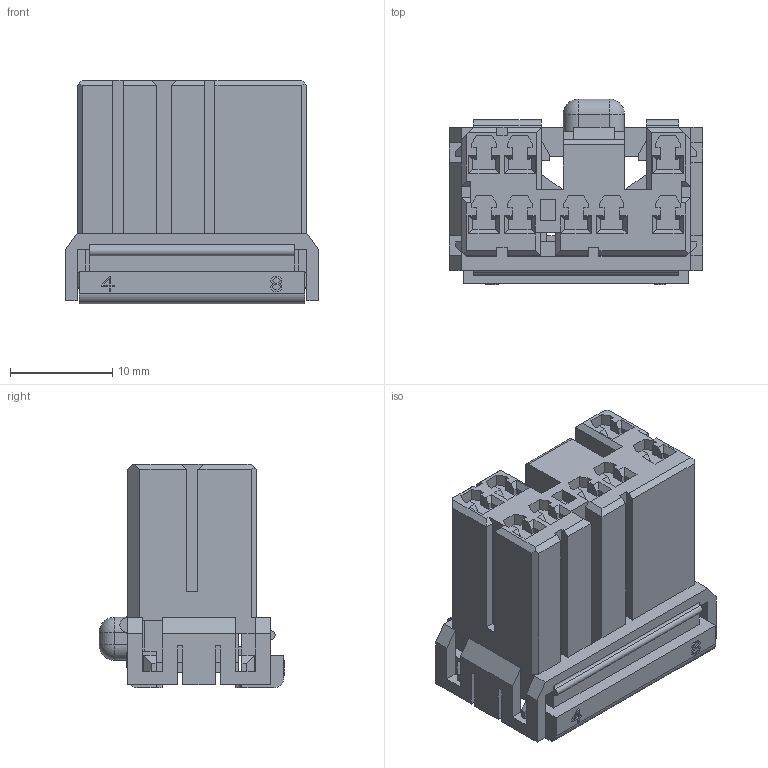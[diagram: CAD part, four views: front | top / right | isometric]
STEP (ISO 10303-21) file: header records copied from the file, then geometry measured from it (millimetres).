
FILE_DESCRIPTION((''),'2;1');
FILE_NAME('C-173850-1','2012-03-26T',('workeradm'),('Tyco Electronics Ltd.'),'PRO/ENGINEER BY PARAMETRIC TECHNOLOGY CORPORATION, 2010430','PRO/ENGINEER BY PARAMETRIC TECHNOLOGY CORPORATION, 2010430','');
FILE_SCHEMA(('AUTOMOTIVE_DESIGN { 1 0 10303 214 1 1 1 1 }'));
Length unit declared in the file: millimetre
Products named in the file (1): C-173850-1
Bounding box: 24.8 x 18.19 x 21.9 mm (x, y, z)
Volume: 5306 mm3; surface area: 3697.9 mm2
Topology: 1 solids, 1 shells, 585 faces, 1668 edges, 1080 vertices
Faces by surface type: plane 552, cylinder 29, sphere 4
Entity records: 18895 total; most frequent: CARTESIAN_POINT 3365, ORIENTED_EDGE 3336, DIRECTION 2894, EDGE_CURVE 1668, VECTOR 1608, LINE 1608, VERTEX_POINT 1080, AXIS2_PLACEMENT_3D 643
